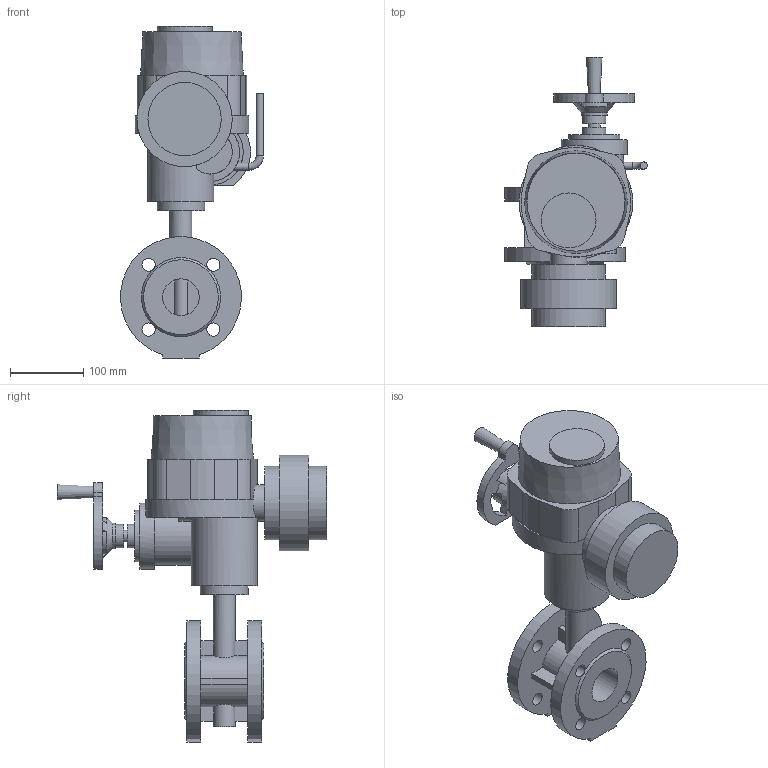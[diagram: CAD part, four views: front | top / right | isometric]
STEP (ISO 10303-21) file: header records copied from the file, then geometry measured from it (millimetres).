
FILE_DESCRIPTION(('STEP AP203'), '1');
FILE_NAME('青蜮铕 021F.Y DN50+菹 QT.A005', '', ('UNSPECIFIED'), ('UNSPECIFIED'), 'ASCON STEP Converter 1.6', 'ASCON Math Kernel', '');
FILE_SCHEMA(('CONFIG_CONTROL_DESIGN'));
Length unit declared in the file: millimetre
Bounding box: 194.85 x 368 x 453 mm (x, y, z)
Volume: 5608313.2 mm3; surface area: 396166.5 mm2
Topology: 1 solids, 1 shells, 179 faces, 457 edges, 298 vertices
Faces by surface type: plane 104, cylinder 69, cone 5, torus 1
Full cylindrical faces by diameter (mm): 6.7 x8, 8 x4, 10 x2, 16 x1, 18 x8, 30 x2, 32 x2, 35 x1, 50 x3, 65 x1, 70 x1, 75 x1, 90 x2, 100 x2, 130 x1
Entity records: 8413 total; most frequent: CARTESIAN_POINT 2614, DIRECTION 937, ORIENTED_EDGE 824, EDGE_CURVE 412, AXIS2_PLACEMENT_3D 377, VERTEX_POINT 298, EDGE_LOOP 264, FACE_BOUND 197
